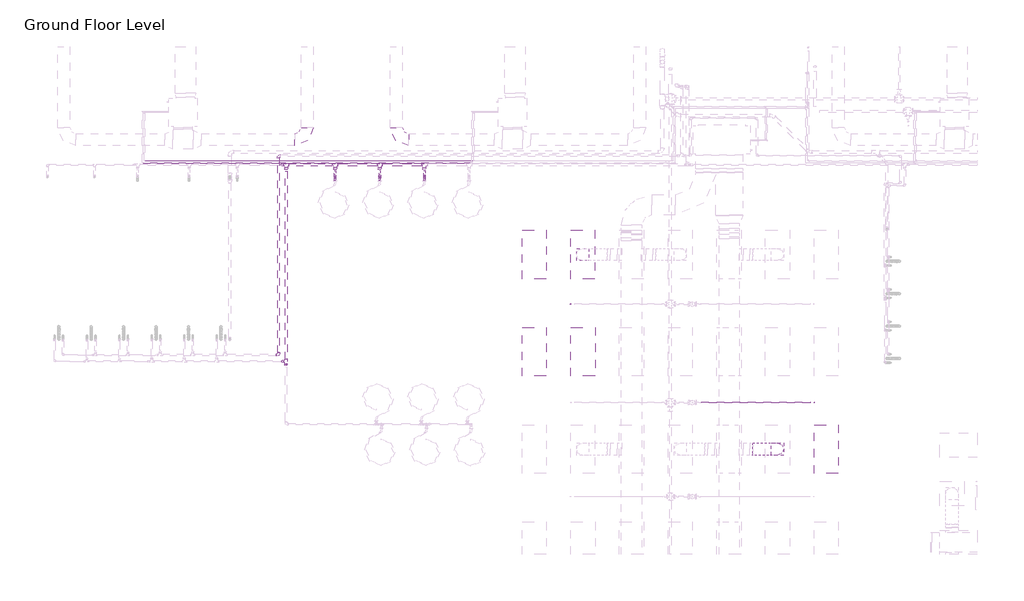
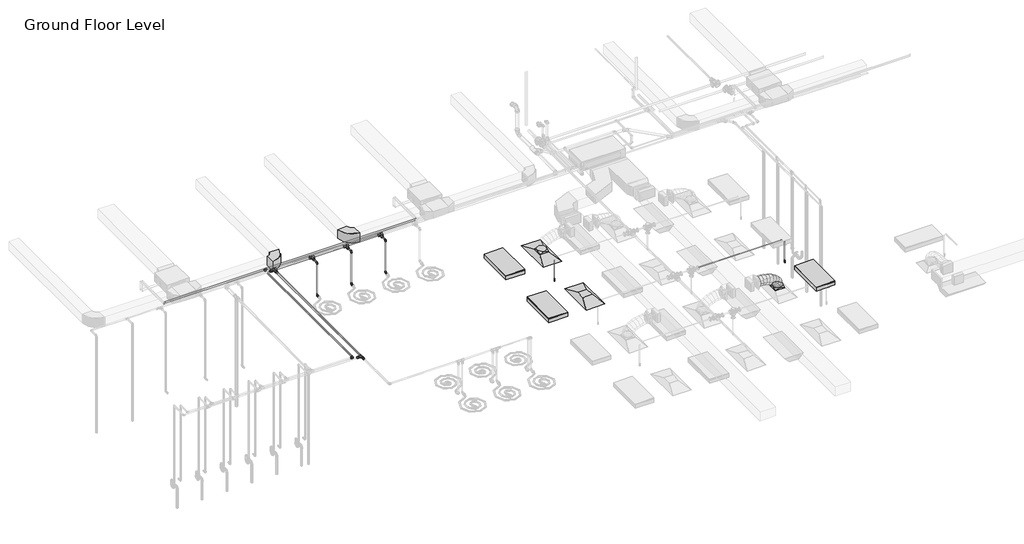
# One storey, part 47 of 74: 20 pipe fittings, 19 pipe segments, 4 duct fittings, 3 light fixtures, 2 air terminals, 2 fire suppression terminals, 1 duct segment.
"""IFC4 building model written with IfcOpenShell, lengths in millimetres."""

from ifc_helpers import new_model, si_unit, point, frame, frame_2d, origin, place, context, project, spatial, circle_curve, ellipse_curve, trimmed, segment, composite_curve, outline, extrude, transform, mapped, element, save
from ifc_brep_helpers import plane_surface, cylinder_surface, advanced_brep
from components import m_return_diffuser_1200x600_1200_x_600_face_300_x_300_d1983ef6, m_rectangular_elbow_radius_1_w_618da153, m_rectangular_to_round_transition_angle_45_degree_641efff0, m_sprinkler_dry_pendent_hosted_15_mm_dry_pendent_9bda8e11, m_troffer_light_parabolic_rectangular1_0600x1200mm_4_lamp_86473d4a, standard_517a5a8d, standard_cd25fed3, standard_f1337950, standard_5079833c, standard_92e3b147, standard_bbae78af, standard_69e4ce0e, standard_a995ec02

model = new_model("IFC4")

# Units and contexts
model_context = context("Model", 3, world=origin())
ifc_project = project(units=[si_unit("LENGTHUNIT", "METRE", prefix="MILLI")], contexts=[model_context])

# Site, building, storey
site = spatial("IfcSite", under=ifc_project)
building = spatial("IfcBuilding", under=site)
storey = spatial("IfcBuildingStorey", under=building, Name="Ground Floor Level", Elevation=900.0)

# Air terminals
placement = place(None, origin())
m_return_diffuser_1200x600_1200_x_600_face_300_x_300_shape = m_return_diffuser_1200x600_1200_x_600_face_300_x_300_d1983ef6(model_context)
element("IfcAirTerminal", 1, ObjectType="M_Return Diffuser 1200x600 : 1200 x 600 Face 300 x 300 Connection", at=placement, inside=storey, context=model_context, shape_type="MappedRepresentation", body=[
    mapped(m_return_diffuser_1200x600_1200_x_600_face_300_x_300_shape, transform((-8137.2327605, 8835.2153534, 3650.0), x_axis=(0.0, 1.0, 0.0), y_axis=(-1.0, 0.0, 0.0), z_axis=(0.0, 0.0, 1.0))),
])
element("IfcAirTerminal", 2, ObjectType="M_Supply Diffuser 1200x600 : 1200 x 600 Face 300 x 300 Connection", at=placement, inside=storey, context=model_context, shape_type="MappedRepresentation", body=[
    mapped(m_return_diffuser_1200x600_1200_x_600_face_300_x_300_shape, transform((-8142.6846929, 11235.2153534, 3650.0), x_axis=(0.0, 1.0, 0.0), y_axis=(-1.0, 0.0, 0.0), z_axis=(0.0, 0.0, 1.0))),
])

# Duct fittings
m_rectangular_elbow_radius_1_w_shape = m_rectangular_elbow_radius_1_w_618da153(model_context)
element("IfcDuctFitting", 3, ObjectType="M_Rectangular Elbow - Radius : 1 W", at=placement, inside=storey, context=model_context, shape_type="MappedRepresentation", body=[
    mapped(m_rectangular_elbow_radius_1_w_shape, transform((-14937.2327605, 14069.8153534, 4075.2881511), x_axis=(1.0, 0.0, 0.0), y_axis=(0.0, 1.0, 0.0), z_axis=(0.0, 0.0, 1.0))),
])
element("IfcDuctFitting", 4, ObjectType="M_Rectangular Elbow - Radius : 1 W", at=placement, inside=storey, context=model_context, shape_type="MappedRepresentation", body=[
    mapped(m_rectangular_elbow_radius_1_w_shape, transform((-12737.2327605, 14069.8153534, 4075.2872564), x_axis=(0.0, -1.0, 0.0), y_axis=(1.0, 0.0, 0.0), z_axis=(0.0, 0.0, 1.0))),
])
m_rectangular_to_round_transition_angle_45_degree_shape = m_rectangular_to_round_transition_angle_45_degree_641efff0(model_context)
element("IfcDuctFitting", 5, ObjectType="M_Rectangular to Round Transition - Angle : 45 Degree", at=placement, inside=storey, context=model_context, shape_type="MappedRepresentation", body=[
    mapped(m_rectangular_to_round_transition_angle_45_degree_shape, transform((-8142.6846929, 11235.2153534, 3751.6), x_axis=(0.0, 0.0, 1.0), y_axis=(-1.0, 0.0, 0.0), z_axis=(0.0, -1.0, 0.0))),
])
element("IfcDuctFitting", 6, ObjectType="M_Rectangular to Round Transition - Angle : 45 Degree", at=placement, inside=storey, context=model_context, shape_type="MappedRepresentation", body=[
    mapped(m_rectangular_to_round_transition_angle_45_degree_shape, transform((-3337.2327605, 6435.2153534, 3751.6), x_axis=(0.0, 0.0, 1.0), y_axis=(-1.0, 0.0, 0.0), z_axis=(0.0, -1.0, 0.0))),
])

# Duct segment
element("IfcDuctSegment", 7, ObjectType="Flex - Round", at=placement, inside=storey, context=model_context, shape_type="AdvancedBrep", body=[
    advanced_brep(
    [(-3187.2327605, 6435.2153534, 3826.6), (-3337.2327605, 6285.2153534, 3826.6), (-3487.2327605, 6435.2153534, 3826.6), (-3337.2327605, 6585.2153534, 3826.6), (-3187.2327605, 6435.2153534, 3882.1255581), (-3337.2327605, 6285.2153534, 3857.3046173), (-3487.2327605, 6435.2153534, 3832.4836764), (-3337.2327605, 6585.2153534, 3857.3046173), (-3218.4253034, 6435.2153534, 3973.7974983), (-3353.8937102, 6285.2153534, 3906.2695763), (-3489.362117, 6435.2153534, 3838.7416543), (-3353.8937102, 6585.2153534, 3906.2695763), (-3288.1573657, 6435.2153534, 4076.409352), (-3399.7704918, 6285.2153534, 3973.7779999), (-3511.3836179, 6435.2153534, 3871.1466478), (-3399.7704918, 6585.2153534, 3973.7779999), (-3386.082926, 6435.2153534, 4155.7082221), (-3468.7040039, 6285.2153534, 4029.599479), (-3551.3250817, 6435.2153534, 3903.4907359), (-3468.7040039, 6585.2153534, 4029.599479), (-3494.825089, 6435.2153534, 4212.2244369), (-3554.535145, 6285.2153534, 4074.2082221), (-3614.2452011, 6435.2153534, 3936.1920073), (-3554.535145, 6585.2153534, 4074.2082221), (-3609.1145825, 6435.2153534, 4252.3095878), (-3651.104814, 6285.2153534, 4108.0784374), (-3693.0950455, 6435.2153534, 3963.847287), (-3651.104814, 6585.2153534, 4108.0784374), (-3724.8435514, 6435.2153534, 4279.3180942), (-3752.2539093, 6285.2153534, 4131.6843333), (-3779.6642673, 6435.2153534, 3984.0505724), (-3752.2539093, 6585.2153534, 4131.6843333), (-3837.5009499, 6435.2153534, 4294.9499053), (-3851.8233297, 6285.2153534, 4145.500118), (-3866.1457095, 6435.2153534, 3996.0503308), (-3851.8233297, 6585.2153534, 4145.500118), (-3932.3208261, 6435.2153534, 4300.0), (-3936.312488, 6285.2153534, 4150.0), (-3940.3041499, 6435.2153534, 4000.0), (-3936.312488, 6585.2153534, 4150.0), (-3943.6539738, 6435.2153534, 4300.0), (-3943.6539738, 6585.2153534, 4150.0), (-3943.6539738, 6435.2153534, 4000.0), (-3943.6539738, 6285.2153534, 4150.0)],
    [
        (0, 1, circle_curve(frame((-3337.2327605, 6435.2153534, 3826.6), z_axis=(0.0, 0.0, -1.0), x_axis=(1.0, 0.0, 0.0)), 150.0)),
        (1, 2, circle_curve(frame((-3337.2327605, 6435.2153534, 3826.6), z_axis=(0.0, 0.0, -1.0), x_axis=(1.0, 0.0, 0.0)), 150.0)),
        (2, 3, circle_curve(frame((-3337.2327605, 6435.2153534, 3826.6), z_axis=(0.0, 0.0, -1.0), x_axis=(1.0, 0.0, 0.0)), 150.0)),
        (3, 0, circle_curve(frame((-3337.2327605, 6435.2153534, 3826.6), z_axis=(0.0, 0.0, -1.0), x_axis=(1.0, 0.0, 0.0)), 150.0)),
        (0, 4),
        (4, 5, ellipse_curve(frame((-3337.2327605, 6435.2153534, 3857.3046173), z_axis=(0.16325299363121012, 0.0, -0.9865842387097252), x_axis=(-0.9865842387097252, 0.0, -0.16325299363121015)), 152.0397287, 150.0)),
        (5, 1),
        (5, 6, ellipse_curve(frame((-3337.2327605, 6435.2153534, 3857.3046173), z_axis=(0.16325299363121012, 0.0, -0.9865842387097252), x_axis=(-0.9865842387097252, 0.0, -0.16325299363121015)), 152.0397287, 150.0)),
        (6, 2),
        (6, 7, ellipse_curve(frame((-3337.2327605, 6435.2153534, 3857.3046173), z_axis=(0.16325299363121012, 0.0, -0.9865842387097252), x_axis=(-0.9865842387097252, 0.0, -0.16325299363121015)), 152.0397287, 150.0)),
        (7, 3),
        (7, 4, ellipse_curve(frame((-3337.2327605, 6435.2153534, 3857.3046173), z_axis=(0.16325299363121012, 0.0, -0.9865842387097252), x_axis=(-0.9865842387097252, 0.0, -0.16325299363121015)), 152.0397287, 150.0)),
        (4, 8),
        (8, 9, ellipse_curve(frame((-3353.8937102, 6435.2153534, 3906.2695763), z_axis=(0.446123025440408, 0.0, -0.894971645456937), x_axis=(-0.8949716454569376, 0.0, -0.44612302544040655)), 151.3661438, 150.0)),
        (9, 5),
        (9, 10, ellipse_curve(frame((-3353.8937102, 6435.2153534, 3906.2695763), z_axis=(0.446123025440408, 0.0, -0.894971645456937), x_axis=(-0.8949716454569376, 0.0, -0.44612302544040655)), 151.3661438, 150.0)),
        (10, 6),
        (10, 11, ellipse_curve(frame((-3353.8937102, 6435.2153534, 3906.2695763), z_axis=(0.446123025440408, 0.0, -0.894971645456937), x_axis=(-0.8949716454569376, 0.0, -0.44612302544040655)), 151.3661438, 150.0)),
        (11, 7),
        (11, 8, ellipse_curve(frame((-3353.8937102, 6435.2153534, 3906.2695763), z_axis=(0.446123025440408, 0.0, -0.894971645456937), x_axis=(-0.8949716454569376, 0.0, -0.44612302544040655)), 151.3661438, 150.0)),
        (8, 12),
        (12, 13, ellipse_curve(frame((-3399.7704918, 6435.2153534, 3973.7779999), z_axis=(0.6768681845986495, 0.0, -0.7361042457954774), x_axis=(-0.7361042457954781, 0.0, -0.6768681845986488)), 151.626793, 150.0)),
        (13, 9),
        (13, 14, ellipse_curve(frame((-3399.7704918, 6435.2153534, 3973.7779999), z_axis=(0.6768681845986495, 0.0, -0.7361042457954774), x_axis=(-0.7361042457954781, 0.0, -0.6768681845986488)), 151.626793, 150.0)),
        (14, 10),
        (14, 15, ellipse_curve(frame((-3399.7704918, 6435.2153534, 3973.7779999), z_axis=(0.6768681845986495, 0.0, -0.7361042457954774), x_axis=(-0.7361042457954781, 0.0, -0.6768681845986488)), 151.626793, 150.0)),
        (15, 11),
        (15, 12, ellipse_curve(frame((-3399.7704918, 6435.2153534, 3973.7779999), z_axis=(0.6768681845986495, 0.0, -0.7361042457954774), x_axis=(-0.7361042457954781, 0.0, -0.6768681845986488)), 151.626793, 150.0)),
        (12, 16),
        (16, 17, ellipse_curve(frame((-3468.7040039, 6435.2153534, 4029.599479), z_axis=(0.8364668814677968, 0.0, -0.5480174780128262), x_axis=(-0.5480174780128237, 0.0, -0.8364668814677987)), 150.7635818, 150.0)),
        (17, 13),
        (17, 18, ellipse_curve(frame((-3468.7040039, 6435.2153534, 4029.599479), z_axis=(0.8364668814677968, 0.0, -0.5480174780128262), x_axis=(-0.5480174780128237, 0.0, -0.8364668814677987)), 150.7635818, 150.0)),
        (18, 14),
        (18, 19, ellipse_curve(frame((-3468.7040039, 6435.2153534, 4029.599479), z_axis=(0.8364668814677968, 0.0, -0.5480174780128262), x_axis=(-0.5480174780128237, 0.0, -0.8364668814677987)), 150.7635818, 150.0)),
        (19, 15),
        (19, 16, ellipse_curve(frame((-3468.7040039, 6435.2153534, 4029.599479), z_axis=(0.8364668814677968, 0.0, -0.5480174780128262), x_axis=(-0.5480174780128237, 0.0, -0.8364668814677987)), 150.7635818, 150.0)),
        (16, 20),
        (20, 21, ellipse_curve(frame((-3554.535145, 6435.2153534, 4074.2082221), z_axis=(0.9177907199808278, 0.0, -0.3970644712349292), x_axis=(-0.3970644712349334, 0.0, -0.917790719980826)), 150.378743, 150.0)),
        (21, 17),
        (21, 22, ellipse_curve(frame((-3554.535145, 6435.2153534, 4074.2082221), z_axis=(0.9177907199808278, 0.0, -0.3970644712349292), x_axis=(-0.3970644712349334, 0.0, -0.917790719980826)), 150.378743, 150.0)),
        (22, 18),
        (22, 23, ellipse_curve(frame((-3554.535145, 6435.2153534, 4074.2082221), z_axis=(0.9177907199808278, 0.0, -0.3970644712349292), x_axis=(-0.3970644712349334, 0.0, -0.917790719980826)), 150.378743, 150.0)),
        (23, 19),
        (23, 20, ellipse_curve(frame((-3554.535145, 6435.2153534, 4074.2082221), z_axis=(0.9177907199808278, 0.0, -0.3970644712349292), x_axis=(-0.3970644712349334, 0.0, -0.917790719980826)), 150.378743, 150.0)),
        (20, 24),
        (24, 25, ellipse_curve(frame((-3651.104814, 6435.2153534, 4108.0784374), z_axis=(0.9601380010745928, 0.0, -0.2795264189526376), x_axis=(-0.2795264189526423, 0.0, -0.9601380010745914)), 150.2191875, 150.0)),
        (25, 21),
        (25, 26, ellipse_curve(frame((-3651.104814, 6435.2153534, 4108.0784374), z_axis=(0.9601380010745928, 0.0, -0.2795264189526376), x_axis=(-0.2795264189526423, 0.0, -0.9601380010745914)), 150.2191875, 150.0)),
        (26, 22),
        (26, 27, ellipse_curve(frame((-3651.104814, 6435.2153534, 4108.0784374), z_axis=(0.9601380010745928, 0.0, -0.2795264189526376), x_axis=(-0.2795264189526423, 0.0, -0.9601380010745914)), 150.2191875, 150.0)),
        (27, 23),
        (27, 24, ellipse_curve(frame((-3651.104814, 6435.2153534, 4108.0784374), z_axis=(0.9601380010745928, 0.0, -0.2795264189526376), x_axis=(-0.2795264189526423, 0.0, -0.9601380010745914)), 150.2191875, 150.0)),
        (24, 28),
        (28, 29, ellipse_curve(frame((-3752.2539093, 6435.2153534, 4131.6843333), z_axis=(0.9831975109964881, 0.0, -0.18254493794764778), x_axis=(-0.18254493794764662, 0.0, -0.9831975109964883)), 150.1567684, 150.0)),
        (29, 25),
        (29, 30, ellipse_curve(frame((-3752.2539093, 6435.2153534, 4131.6843333), z_axis=(0.9831975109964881, 0.0, -0.18254493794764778), x_axis=(-0.18254493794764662, 0.0, -0.9831975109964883)), 150.1567684, 150.0)),
        (30, 26),
        (30, 31, ellipse_curve(frame((-3752.2539093, 6435.2153534, 4131.6843333), z_axis=(0.9831975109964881, 0.0, -0.18254493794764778), x_axis=(-0.18254493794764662, 0.0, -0.9831975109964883)), 150.1567684, 150.0)),
        (31, 27),
        (31, 28, ellipse_curve(frame((-3752.2539093, 6435.2153534, 4131.6843333), z_axis=(0.9831975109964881, 0.0, -0.18254493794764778), x_axis=(-0.18254493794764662, 0.0, -0.9831975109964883)), 150.1567684, 150.0)),
        (28, 32),
        (32, 33, ellipse_curve(frame((-3851.8233297, 6435.2153534, 4145.500118), z_axis=(0.9954393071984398, 0.0, -0.09539698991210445), x_axis=(-0.09539698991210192, 0.0, -0.99543930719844)), 150.1345046, 150.0)),
        (33, 29),
        (33, 34, ellipse_curve(frame((-3851.8233297, 6435.2153534, 4145.500118), z_axis=(0.9954393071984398, 0.0, -0.09539698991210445), x_axis=(-0.09539698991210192, 0.0, -0.99543930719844)), 150.1345046, 150.0)),
        (34, 30),
        (34, 35, ellipse_curve(frame((-3851.8233297, 6435.2153534, 4145.500118), z_axis=(0.9954393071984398, 0.0, -0.09539698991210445), x_axis=(-0.09539698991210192, 0.0, -0.99543930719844)), 150.1345046, 150.0)),
        (35, 31),
        (35, 32, ellipse_curve(frame((-3851.8233297, 6435.2153534, 4145.500118), z_axis=(0.9954393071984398, 0.0, -0.09539698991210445), x_axis=(-0.09539698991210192, 0.0, -0.99543930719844)), 150.1345046, 150.0)),
        (32, 36),
        (36, 37, ellipse_curve(frame((-3936.312488, 6435.2153534, 4150.0), z_axis=(0.9996461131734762, 0.0, -0.02660166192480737), x_axis=(-0.026601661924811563, 0.0, -0.9996461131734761)), 150.0531018, 150.0)),
        (37, 33),
        (37, 38, ellipse_curve(frame((-3936.312488, 6435.2153534, 4150.0), z_axis=(0.9996461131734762, 0.0, -0.02660166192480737), x_axis=(-0.026601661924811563, 0.0, -0.9996461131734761)), 150.0531018, 150.0)),
        (38, 34),
        (38, 39, ellipse_curve(frame((-3936.312488, 6435.2153534, 4150.0), z_axis=(0.9996461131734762, 0.0, -0.02660166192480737), x_axis=(-0.026601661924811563, 0.0, -0.9996461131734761)), 150.0531018, 150.0)),
        (39, 35),
        (39, 36, ellipse_curve(frame((-3936.312488, 6435.2153534, 4150.0), z_axis=(0.9996461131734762, 0.0, -0.02660166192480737), x_axis=(-0.026601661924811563, 0.0, -0.9996461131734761)), 150.0531018, 150.0)),
        (40, 41, circle_curve(frame((-3943.6539738, 6435.2153534, 4150.0), z_axis=(-1.0, 0.0, 0.0), x_axis=(0.0, 0.0, 1.0)), 150.0)),
        (41, 42, circle_curve(frame((-3943.6539738, 6435.2153534, 4150.0), z_axis=(-1.0, 0.0, 0.0), x_axis=(0.0, 0.0, 1.0)), 150.0)),
        (42, 43, circle_curve(frame((-3943.6539738, 6435.2153534, 4150.0), z_axis=(-1.0, 0.0, 0.0), x_axis=(0.0, 0.0, 1.0)), 150.0)),
        (43, 40, circle_curve(frame((-3943.6539738, 6435.2153534, 4150.0), z_axis=(-1.0, 0.0, 0.0), x_axis=(0.0, 0.0, 1.0)), 150.0)),
        (36, 40),
        (43, 37),
        (42, 38),
        (41, 39),
    ],
    [
        plane_surface(frame((-3337.2327605, 6285.2153534, 3826.6), z_axis=(0.0, 0.0, -1.0), x_axis=(1.0, 0.0, 0.0))),
        cylinder_surface(frame((-3337.2327605, 6435.2153534, 3826.6), z_axis=(0.0, 0.0, -1.0), x_axis=(1.0, 0.0, 0.0)), 150.0),
        cylinder_surface(frame((-3337.2327605, 6435.2153534, 3857.3046173), z_axis=(0.3221256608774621, 0.0, -0.9466969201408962), x_axis=(0.9466969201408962, 0.0, 0.3221256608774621)), 150.0),
        cylinder_surface(frame((-3353.8937102, 6435.2153534, 3906.2695763), z_axis=(0.5620674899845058, 0.0, -0.8270913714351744), x_axis=(0.8270913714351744, 0.0, 0.5620674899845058)), 150.0),
        cylinder_surface(frame((-3399.7704918, 6435.2153534, 3973.7779999), z_axis=(0.7771447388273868, 0.0, -0.6293219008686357), x_axis=(0.6293219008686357, 0.0, 0.7771447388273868)), 150.0),
        cylinder_surface(frame((-3468.7040039, 6435.2153534, 4029.599479), z_axis=(0.8873160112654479, 0.0, -0.4611618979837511), x_axis=(0.4611618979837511, 0.0, 0.8873160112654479)), 150.0),
        cylinder_surface(frame((-3554.535145, 6435.2153534, 4074.2082221), z_axis=(0.9436423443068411, 0.0, -0.3309669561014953), x_axis=(0.3309669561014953, 0.0, 0.9436423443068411)), 150.0),
        cylinder_surface(frame((-3651.104814, 6435.2153534, 4108.0784374), z_axis=(0.973831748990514, 0.0, -0.22727015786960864), x_axis=(0.22727015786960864, 0.0, 0.973831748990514)), 150.0),
        cylinder_surface(frame((-3752.2539093, 6435.2153534, 4131.6843333), z_axis=(0.9905102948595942, 0.0, -0.1374385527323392), x_axis=(0.1374385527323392, 0.0, 0.9905102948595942)), 150.0),
        cylinder_surface(frame((-3851.8233297, 6435.2153534, 4145.500118), z_axis=(0.9985847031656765, 0.0, -0.05318449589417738), x_axis=(0.05318449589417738, 0.0, 0.9985847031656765)), 150.0),
        plane_surface(frame((-3943.6539738, 6435.2153534, 4000.0), z_axis=(-1.0, 0.0, 0.0), x_axis=(0.0, -1.0, 0.0))),
        cylinder_surface(frame((-3936.312488, 6435.2153534, 4150.0), z_axis=(1.0, 0.0, 0.0), x_axis=(0.0, 0.0, 1.0)), 150.0),
    ],
    [
        (0, [[1, 2, 3, 4]]),
        (1, [[-1, 5, 6, 7]]),
        (1, [[-2, -7, 8, 9]]),
        (1, [[-3, -9, 10, 11]]),
        (1, [[-4, -11, 12, -5]]),
        (2, [[-6, 13, 14, 15]]),
        (2, [[-8, -15, 16, 17]]),
        (2, [[-10, -17, 18, 19]]),
        (2, [[-12, -19, 20, -13]]),
        (3, [[-14, 21, 22, 23]]),
        (3, [[-16, -23, 24, 25]]),
        (3, [[-18, -25, 26, 27]]),
        (3, [[-20, -27, 28, -21]]),
        (4, [[-22, 29, 30, 31]]),
        (4, [[-24, -31, 32, 33]]),
        (4, [[-26, -33, 34, 35]]),
        (4, [[-28, -35, 36, -29]]),
        (5, [[-30, 37, 38, 39]]),
        (5, [[-32, -39, 40, 41]]),
        (5, [[-34, -41, 42, 43]]),
        (5, [[-36, -43, 44, -37]]),
        (6, [[-38, 45, 46, 47]]),
        (6, [[-40, -47, 48, 49]]),
        (6, [[-42, -49, 50, 51]]),
        (6, [[-44, -51, 52, -45]]),
        (7, [[-46, 53, 54, 55]]),
        (7, [[-48, -55, 56, 57]]),
        (7, [[-50, -57, 58, 59]]),
        (7, [[-52, -59, 60, -53]]),
        (8, [[-54, 61, 62, 63]]),
        (8, [[-56, -63, 64, 65]]),
        (8, [[-58, -65, 66, 67]]),
        (8, [[-60, -67, 68, -61]]),
        (9, [[-62, 69, 70, 71]]),
        (9, [[-64, -71, 72, 73]]),
        (9, [[-66, -73, 74, 75]]),
        (9, [[-68, -75, 76, -69]]),
        (10, [[77, 78, 79, 80]]),
        (11, [[-70, 81, -80, 82]]),
        (11, [[-72, -82, -79, 83]]),
        (11, [[-74, -83, -78, 84]]),
        (11, [[-76, -84, -77, -81]]),
    ],
),
])

# Fire suppression terminals
m_sprinkler_dry_pendent_hosted_15_mm_dry_pendent_shape = m_sprinkler_dry_pendent_hosted_15_mm_dry_pendent_9bda8e11(model_context)
element("IfcFireSuppressionTerminal", 8, ObjectType="M_Sprinkler - Dry - Pendent - Hosted : 15 mm Dry Pendent", at=placement, inside=storey, context=model_context, shape_type="MappedRepresentation", body=[
    mapped(m_sprinkler_dry_pendent_hosted_15_mm_dry_pendent_shape, transform((-8437.2327605, 10013.008259, 3650.0), x_axis=(1.0, 0.0, 0.0), y_axis=(0.0, -1.0, 0.0), z_axis=(0.0, 0.0, -1.0))),
])
element("IfcFireSuppressionTerminal", 9, ObjectType="M_Sprinkler - Dry - Pendent - Hosted : 15 mm Dry Pendent", at=placement, inside=storey, context=model_context, shape_type="MappedRepresentation", body=[
    mapped(m_sprinkler_dry_pendent_hosted_15_mm_dry_pendent_shape, transform((-2437.2327605, 7582.7040742, 3650.0), x_axis=(1.0, 0.0, 0.0), y_axis=(0.0, -1.0, 0.0), z_axis=(0.0, 0.0, -1.0))),
])

# Light fixtures
m_troffer_light_parabolic_rectangular1_0600x1200mm_4_lamp_shape = m_troffer_light_parabolic_rectangular1_0600x1200mm_4_lamp_86473d4a(model_context)
element("IfcLightFixture", 10, ObjectType="M_Troffer Light - Parabolic Rectangular1 : 0600x1200mm(4 Lamp) - 277V 2", at=placement, inside=storey, context=model_context, shape_type="MappedRepresentation", body=[
    mapped(m_troffer_light_parabolic_rectangular1_0600x1200mm_4_lamp_shape, transform((-9396.6986926, 11253.918855, 3650.0), x_axis=(0.0, 1.0, 0.0), y_axis=(-1.0, 0.0, 0.0), z_axis=(0.0, 0.0, 1.0))),
])
element("IfcLightFixture", 11, ObjectType="M_Troffer Light - Parabolic Rectangular1 : 0600x1200mm(4 Lamp) - 277V 2", at=placement, inside=storey, context=model_context, shape_type="MappedRepresentation", body=[
    mapped(m_troffer_light_parabolic_rectangular1_0600x1200mm_4_lamp_shape, transform((-9396.6986926, 8853.918855, 3650.0), x_axis=(0.0, 1.0, 0.0), y_axis=(-1.0, 0.0, 0.0), z_axis=(0.0, 0.0, 1.0))),
])
element("IfcLightFixture", 12, ObjectType="M_Troffer Light - Parabolic Rectangular1 : 0600x1200mm(4 Lamp) - 277V 2", at=placement, inside=storey, context=model_context, shape_type="MappedRepresentation", body=[
    mapped(m_troffer_light_parabolic_rectangular1_0600x1200mm_4_lamp_shape, transform((-2196.6986926, 6453.918855, 3650.0), x_axis=(0.0, 1.0, 0.0), y_axis=(-1.0, 0.0, 0.0), z_axis=(0.0, 0.0, 1.0))),
])

# Pipe fittings
standard_shape = standard_517a5a8d(model_context)
element("IfcPipeFitting", 13, ObjectType="M_Elbow - CPVC - Sch 40 : Standard", at=placement, inside=storey, context=model_context, shape_type="MappedRepresentation", body=[
    mapped(standard_shape, transform((-14247.2327605, 13150.8347997, 3200.0), x_axis=(0.0, 1.0, 0.0), y_axis=(0.0, 0.0, 1.0), z_axis=(1.0, 0.0, 0.0))),
])
element("IfcPipeFitting", 14, ObjectType="M_Elbow - CPVC - Sch 40 : Standard", at=placement, inside=storey, context=model_context, shape_type="MappedRepresentation", body=[
    mapped(standard_shape, transform((-14247.2327605, 13150.8347997, 4315.0), x_axis=(0.0, 0.0, 1.0), y_axis=(0.0, 1.0, 0.0), z_axis=(-1.0, 0.0, 0.0))),
])
element("IfcPipeFitting", 15, ObjectType="M_Elbow - CPVC - Sch 40 : Standard", at=placement, inside=storey, context=model_context, shape_type="MappedRepresentation", body=[
    mapped(standard_shape, transform((-13147.2327605, 13150.8347997, 4315.0), x_axis=(0.0, 0.0, 1.0), y_axis=(0.0, 1.0, 0.0), z_axis=(-1.0, 0.0, 0.0))),
])
element("IfcPipeFitting", 16, ObjectType="M_Elbow - CPVC - Sch 40 : Standard", at=placement, inside=storey, context=model_context, shape_type="MappedRepresentation", body=[
    mapped(standard_shape, transform((-12047.2327605, 13150.8347997, 4315.0), x_axis=(0.0, 0.0, 1.0), y_axis=(0.0, 1.0, 0.0), z_axis=(-1.0, 0.0, 0.0))),
])
element("IfcPipeFitting", 17, ObjectType="M_Elbow - CPVC - Sch 40 : Standard", at=placement, inside=storey, context=model_context, shape_type="MappedRepresentation", body=[
    mapped(standard_shape, transform((-13147.2327605, 13150.8347997, 3200.0), x_axis=(0.0, 0.0, -1.0), y_axis=(0.0, -1.0, 0.0), z_axis=(-1.0, 0.0, 0.0))),
])
element("IfcPipeFitting", 18, ObjectType="M_Elbow - CPVC - Sch 40 : Standard", at=placement, inside=storey, context=model_context, shape_type="MappedRepresentation", body=[
    mapped(standard_shape, transform((-12047.2327605, 13150.8347997, 3200.0), x_axis=(0.0, 0.0, -1.0), y_axis=(0.0, -1.0, 0.0), z_axis=(-1.0, 0.0, 0.0))),
])
standard_2_shape = standard_cd25fed3(model_context)
element("IfcPipeFitting", 19, ObjectType="M_Tee - CPVC - Sch 40 : Standard", at=placement, inside=storey, context=model_context, shape_type="MappedRepresentation", body=[
    mapped(standard_2_shape, transform((-14247.2327605, 13449.9865561, 4315.0), x_axis=(-1.0, 0.0, 0.0), y_axis=(0.0, 1.0, 0.0), z_axis=(0.0, 0.0, -1.0))),
])
element("IfcPipeFitting", 20, ObjectType="M_Tee - CPVC - Sch 40 : Standard", at=placement, inside=storey, context=model_context, shape_type="MappedRepresentation", body=[
    mapped(standard_2_shape, transform((-13147.2327605, 13449.9865561, 4315.0), x_axis=(-1.0, 0.0, 0.0), y_axis=(0.0, 1.0, 0.0), z_axis=(0.0, 0.0, -1.0))),
])
element("IfcPipeFitting", 21, ObjectType="M_Tee - CPVC - Sch 40 : Standard", at=placement, inside=storey, context=model_context, shape_type="MappedRepresentation", body=[
    mapped(standard_2_shape, transform((-12047.2327605, 13449.9865561, 4315.0), x_axis=(-1.0, 0.0, 0.0), y_axis=(0.0, 1.0, 0.0), z_axis=(0.0, 0.0, -1.0))),
])
element("IfcPipeFitting", 22, ObjectType="M_Tee - CPVC - Sch 40 : Standard", at=placement, inside=storey, context=model_context, shape_type="MappedRepresentation", body=[
    mapped(standard_2_shape, transform((-15455.6408298, 13449.9865561, 4315.0), x_axis=(-1.0, 0.0, 0.0), y_axis=(0.0, 1.0, 0.0), z_axis=(0.0, 0.0, -1.0))),
])
standard_3_shape = standard_f1337950(model_context)
element("IfcPipeFitting", 23, ObjectType="M_Coupling Reducing - CPVC - Sch 40 : Standard", at=placement, inside=storey, context=model_context, shape_type="MappedRepresentation", body=[
    mapped(standard_3_shape, transform((-14247.2327605, 13383.3115561, 4315.0), x_axis=(0.0, -1.0, 0.0), y_axis=(1.0, 0.0, 0.0), z_axis=(0.0, 0.0, 1.0))),
])
element("IfcPipeFitting", 24, ObjectType="M_Coupling Reducing - CPVC - Sch 40 : Standard", at=placement, inside=storey, context=model_context, shape_type="MappedRepresentation", body=[
    mapped(standard_3_shape, transform((-13147.2327605, 13383.3115561, 4315.0), x_axis=(0.0, -1.0, 0.0), y_axis=(1.0, 0.0, 0.0), z_axis=(0.0, 0.0, 1.0))),
])
element("IfcPipeFitting", 25, ObjectType="M_Coupling Reducing - CPVC - Sch 40 : Standard", at=placement, inside=storey, context=model_context, shape_type="MappedRepresentation", body=[
    mapped(standard_3_shape, transform((-12047.2327605, 13383.3115561, 4315.0), x_axis=(0.0, -1.0, 0.0), y_axis=(1.0, 0.0, 0.0), z_axis=(0.0, 0.0, 1.0))),
])
standard_4_shape = standard_5079833c(model_context)
element("IfcPipeFitting", 26, ObjectType="M_Coupling Reducing - CPVC - Sch 40 : Standard", at=placement, inside=storey, context=model_context, shape_type="MappedRepresentation", body=[
    mapped(standard_4_shape, transform((-15522.3158298, 13449.9865561, 4315.0), x_axis=(-1.0, 0.0, 0.0), y_axis=(0.0, -1.0, 0.0), z_axis=(0.0, 0.0, 1.0))),
])
standard_5_shape = standard_92e3b147(model_context)
element("IfcPipeFitting", 27, ObjectType="M_Coupling Reducing - CPVC - Sch 40 : Standard", at=placement, inside=storey, context=model_context, shape_type="MappedRepresentation", body=[
    mapped(standard_5_shape, transform((-15455.6408298, 13383.3115561, 4315.0), x_axis=(0.0, -1.0, 0.0), y_axis=(1.0, 0.0, 0.0), z_axis=(0.0, 0.0, 1.0))),
])
standard_6_shape = standard_bbae78af(model_context)
element("IfcPipeFitting", 28, ObjectType="M_Tee - CPVC - Sch 40 : Standard", at=placement, inside=storey, context=model_context, shape_type="MappedRepresentation", body=[
    mapped(standard_6_shape, transform((-15455.6408298, 8599.9071734, 4315.0), x_axis=(0.0, 1.0, 0.0), y_axis=(1.0, 0.0, 0.0), z_axis=(0.0, 0.0, -1.0))),
])
standard_7_shape = standard_69e4ce0e(model_context)
element("IfcPipeFitting", 29, ObjectType="M_Elbow - CPVC - Sch 40 : Standard", at=placement, inside=storey, context=model_context, shape_type="MappedRepresentation", body=[
    mapped(standard_7_shape, transform((-15642.8173674, 8755.2153534, 4250.0), x_axis=(1.0, 0.0, 0.0), y_axis=(0.0, 1.0, 0.0), z_axis=(0.0, 0.0, 1.0))),
])
element("IfcPipeFitting", 30, ObjectType="M_Elbow - CPVC - Sch 40 : Standard", at=placement, inside=storey, context=model_context, shape_type="MappedRepresentation", body=[
    mapped(standard_7_shape, transform((-15642.8173674, 13675.2153534, 4250.0), x_axis=(-1.0, 0.0, 0.0), y_axis=(0.0, -1.0, 0.0), z_axis=(0.0, 0.0, 1.0))),
])
standard_8_shape = standard_a995ec02(model_context)
element("IfcPipeFitting", 31, ObjectType="M_Coupling Reducing - CPVC - Sch 40 : Standard", at=placement, inside=storey, context=model_context, shape_type="MappedRepresentation", body=[
    mapped(standard_8_shape, transform((-15455.6408298, 8541.1569734, 4315.0), x_axis=(0.0, -1.0, 0.0), y_axis=(1.0, 0.0, 0.0), z_axis=(0.0, 0.0, 1.0))),
])
element("IfcPipeFitting", 32, ObjectType="M_Coupling Reducing - CPVC - Sch 40 : Standard", at=placement, inside=storey, context=model_context, shape_type="MappedRepresentation", body=[
    mapped(standard_8_shape, transform((-15514.3910298, 8599.9071734, 4315.0), x_axis=(-1.0, 0.0, 0.0), y_axis=(0.0, -1.0, 0.0), z_axis=(0.0, 0.0, 1.0))),
])

# Pipe segments
element("IfcPipeSegment", 33, ObjectType="CPVC", at=placement, inside=storey, context=model_context, shape_type="SweptSolid", body=[
    extrude(outline(composite_curve([segment(trimmed(circle_curve(frame_2d((3200.0, -14247.2327605)), 16.7005), [point((3200.0, -14230.5322605))], [point((3216.7005, -14247.2327605))], False, "CARTESIAN"), True, "CONTINUOUS"), segment(trimmed(circle_curve(frame_2d((3200.0, -14247.2327605)), 16.7005), [point((3216.7005, -14247.2327605))], [point((3200.0, -14263.9332605))], False, "CARTESIAN"), True, "CONTINUOUS"), segment(trimmed(circle_curve(frame_2d((3200.0, -14247.2327605)), 16.7005), [point((3200.0, -14263.9332605))], [point((3183.2995, -14247.2327605))], False, "CARTESIAN"), True, "CONTINUOUS"), segment(trimmed(circle_curve(frame_2d((3200.0, -14247.2327605)), 16.7005), [point((3183.2995, -14247.2327605))], [point((3200.0, -14230.5322605))], False, "CARTESIAN"), True, "CONTINUOUS")], self_intersect=False)), frame((0.0, 13056.8347997, 0.0), z_axis=(0.0, 1.0, 0.0), x_axis=(0.0, 0.0, 1.0)), (0.0, 0.0, 1.0), 50.73745),
])
element("IfcPipeSegment", 34, ObjectType="CPVC", at=placement, inside=storey, context=model_context, shape_type="SweptSolid", body=[
    extrude(outline(composite_curve([segment(trimmed(circle_curve(frame_2d((4315.0, -14247.2327605)), 16.7005), [point((4315.0, -14230.5322605))], [point((4331.7005, -14247.2327605))], False, "CARTESIAN"), True, "CONTINUOUS"), segment(trimmed(circle_curve(frame_2d((4315.0, -14247.2327605)), 16.7005), [point((4331.7005, -14247.2327605))], [point((4315.0, -14263.9332605))], False, "CARTESIAN"), True, "CONTINUOUS"), segment(trimmed(circle_curve(frame_2d((4315.0, -14247.2327605)), 16.7005), [point((4315.0, -14263.9332605))], [point((4298.2995, -14247.2327605))], False, "CARTESIAN"), True, "CONTINUOUS"), segment(trimmed(circle_curve(frame_2d((4315.0, -14247.2327605)), 16.7005), [point((4298.2995, -14247.2327605))], [point((4315.0, -14230.5322605))], False, "CARTESIAN"), True, "CONTINUOUS")], self_intersect=False)), frame((0.0, 13194.0973497, 0.0), z_axis=(0.0, 1.0, 0.0), x_axis=(0.0, 0.0, 1.0)), (0.0, 0.0, 1.0), 109.4153315),
])
element("IfcPipeSegment", 35, ObjectType="CPVC", at=placement, inside=storey, context=model_context, shape_type="SweptSolid", body=[
    extrude(outline(composite_curve([segment(trimmed(circle_curve(frame_2d((-14247.2327605, 13150.8347997)), 16.7005), [point((-14263.9332605, 13150.8347997))], [point((-14247.2327605, 13167.5352997))], False, "CARTESIAN"), True, "CONTINUOUS"), segment(trimmed(circle_curve(frame_2d((-14247.2327605, 13150.8347997)), 16.7005), [point((-14247.2327605, 13167.5352997))], [point((-14230.5322605, 13150.8347997))], False, "CARTESIAN"), True, "CONTINUOUS"), segment(trimmed(circle_curve(frame_2d((-14247.2327605, 13150.8347997)), 16.7005), [point((-14230.5322605, 13150.8347997))], [point((-14247.2327605, 13134.1342997))], False, "CARTESIAN"), True, "CONTINUOUS"), segment(trimmed(circle_curve(frame_2d((-14247.2327605, 13150.8347997)), 16.7005), [point((-14247.2327605, 13134.1342997))], [point((-14263.9332605, 13150.8347997))], False, "CARTESIAN"), True, "CONTINUOUS")], self_intersect=False)), frame((0.0, 0.0, 3243.26255), z_axis=(0.0, 0.0, 1.0), x_axis=(1.0, 0.0, 0.0)), (0.0, 0.0, 1.0), 1028.4749),
])
element("IfcPipeSegment", 36, ObjectType="CPVC", at=placement, inside=storey, context=model_context, shape_type="SweptSolid", body=[
    extrude(outline(composite_curve([segment(trimmed(circle_curve(frame_2d((3200.0, -13147.2327605)), 16.7005), [point((3200.0, -13163.9332605))], [point((3183.2995, -13147.2327605))], False, "CARTESIAN"), True, "CONTINUOUS"), segment(trimmed(circle_curve(frame_2d((3200.0, -13147.2327605)), 16.7005), [point((3183.2995, -13147.2327605))], [point((3200.0, -13130.5322605))], False, "CARTESIAN"), True, "CONTINUOUS"), segment(trimmed(circle_curve(frame_2d((3200.0, -13147.2327605)), 16.7005), [point((3200.0, -13130.5322605))], [point((3216.7005, -13147.2327605))], False, "CARTESIAN"), True, "CONTINUOUS"), segment(trimmed(circle_curve(frame_2d((3200.0, -13147.2327605)), 16.7005), [point((3216.7005, -13147.2327605))], [point((3200.0, -13163.9332605))], False, "CARTESIAN"), True, "CONTINUOUS")], self_intersect=False)), frame((0.0, 13056.8347997, 0.0), z_axis=(0.0, 1.0, 0.0), x_axis=(0.0, 0.0, 1.0)), (0.0, 0.0, 1.0), 50.73745),
])
element("IfcPipeSegment", 37, ObjectType="CPVC", at=placement, inside=storey, context=model_context, shape_type="SweptSolid", body=[
    extrude(outline(composite_curve([segment(trimmed(circle_curve(frame_2d((4315.0, -13147.2327605)), 16.7005), [point((4315.0, -13130.5322605))], [point((4331.7005, -13147.2327605))], False, "CARTESIAN"), True, "CONTINUOUS"), segment(trimmed(circle_curve(frame_2d((4315.0, -13147.2327605)), 16.7005), [point((4331.7005, -13147.2327605))], [point((4315.0, -13163.9332605))], False, "CARTESIAN"), True, "CONTINUOUS"), segment(trimmed(circle_curve(frame_2d((4315.0, -13147.2327605)), 16.7005), [point((4315.0, -13163.9332605))], [point((4298.2995, -13147.2327605))], False, "CARTESIAN"), True, "CONTINUOUS"), segment(trimmed(circle_curve(frame_2d((4315.0, -13147.2327605)), 16.7005), [point((4298.2995, -13147.2327605))], [point((4315.0, -13130.5322605))], False, "CARTESIAN"), True, "CONTINUOUS")], self_intersect=False)), frame((0.0, 13194.0973497, 0.0), z_axis=(0.0, 1.0, 0.0), x_axis=(0.0, 0.0, 1.0)), (0.0, 0.0, 1.0), 109.4153315),
])
element("IfcPipeSegment", 38, ObjectType="CPVC", at=placement, inside=storey, context=model_context, shape_type="SweptSolid", body=[
    extrude(outline(composite_curve([segment(trimmed(circle_curve(frame_2d((-13147.2327605, 13150.8347997)), 16.7005), [point((-13163.9332605, 13150.8347997))], [point((-13147.2327605, 13167.5352997))], False, "CARTESIAN"), True, "CONTINUOUS"), segment(trimmed(circle_curve(frame_2d((-13147.2327605, 13150.8347997)), 16.7005), [point((-13147.2327605, 13167.5352997))], [point((-13130.5322605, 13150.8347997))], False, "CARTESIAN"), True, "CONTINUOUS"), segment(trimmed(circle_curve(frame_2d((-13147.2327605, 13150.8347997)), 16.7005), [point((-13130.5322605, 13150.8347997))], [point((-13147.2327605, 13134.1342997))], False, "CARTESIAN"), True, "CONTINUOUS"), segment(trimmed(circle_curve(frame_2d((-13147.2327605, 13150.8347997)), 16.7005), [point((-13147.2327605, 13134.1342997))], [point((-13163.9332605, 13150.8347997))], False, "CARTESIAN"), True, "CONTINUOUS")], self_intersect=False)), frame((0.0, 0.0, 3243.26255), z_axis=(0.0, 0.0, 1.0), x_axis=(1.0, 0.0, 0.0)), (0.0, 0.0, 1.0), 1028.4749),
])
element("IfcPipeSegment", 39, ObjectType="CPVC", at=placement, inside=storey, context=model_context, shape_type="SweptSolid", body=[
    extrude(outline(composite_curve([segment(trimmed(circle_curve(frame_2d((3200.0, -12047.2327605)), 16.7005), [point((3200.0, -12063.9332605))], [point((3183.2995, -12047.2327605))], False, "CARTESIAN"), True, "CONTINUOUS"), segment(trimmed(circle_curve(frame_2d((3200.0, -12047.2327605)), 16.7005), [point((3183.2995, -12047.2327605))], [point((3200.0, -12030.5322605))], False, "CARTESIAN"), True, "CONTINUOUS"), segment(trimmed(circle_curve(frame_2d((3200.0, -12047.2327605)), 16.7005), [point((3200.0, -12030.5322605))], [point((3216.7005, -12047.2327605))], False, "CARTESIAN"), True, "CONTINUOUS"), segment(trimmed(circle_curve(frame_2d((3200.0, -12047.2327605)), 16.7005), [point((3216.7005, -12047.2327605))], [point((3200.0, -12063.9332605))], False, "CARTESIAN"), True, "CONTINUOUS")], self_intersect=False)), frame((0.0, 13056.8347997, 0.0), z_axis=(0.0, 1.0, 0.0), x_axis=(0.0, 0.0, 1.0)), (0.0, 0.0, 1.0), 50.73745),
])
element("IfcPipeSegment", 40, ObjectType="CPVC", at=placement, inside=storey, context=model_context, shape_type="SweptSolid", body=[
    extrude(outline(composite_curve([segment(trimmed(circle_curve(frame_2d((4315.0, -12047.2327605)), 16.7005), [point((4315.0, -12030.5322605))], [point((4331.7005, -12047.2327605))], False, "CARTESIAN"), True, "CONTINUOUS"), segment(trimmed(circle_curve(frame_2d((4315.0, -12047.2327605)), 16.7005), [point((4331.7005, -12047.2327605))], [point((4315.0, -12063.9332605))], False, "CARTESIAN"), True, "CONTINUOUS"), segment(trimmed(circle_curve(frame_2d((4315.0, -12047.2327605)), 16.7005), [point((4315.0, -12063.9332605))], [point((4298.2995, -12047.2327605))], False, "CARTESIAN"), True, "CONTINUOUS"), segment(trimmed(circle_curve(frame_2d((4315.0, -12047.2327605)), 16.7005), [point((4298.2995, -12047.2327605))], [point((4315.0, -12030.5322605))], False, "CARTESIAN"), True, "CONTINUOUS")], self_intersect=False)), frame((0.0, 13194.0973497, 0.0), z_axis=(0.0, 1.0, 0.0), x_axis=(0.0, 0.0, 1.0)), (0.0, 0.0, 1.0), 109.4153315),
])
element("IfcPipeSegment", 41, ObjectType="CPVC", at=placement, inside=storey, context=model_context, shape_type="SweptSolid", body=[
    extrude(outline(composite_curve([segment(trimmed(circle_curve(frame_2d((-12047.2327605, 13150.8347997)), 16.7005), [point((-12063.9332605, 13150.8347997))], [point((-12047.2327605, 13167.5352997))], False, "CARTESIAN"), True, "CONTINUOUS"), segment(trimmed(circle_curve(frame_2d((-12047.2327605, 13150.8347997)), 16.7005), [point((-12047.2327605, 13167.5352997))], [point((-12030.5322605, 13150.8347997))], False, "CARTESIAN"), True, "CONTINUOUS"), segment(trimmed(circle_curve(frame_2d((-12047.2327605, 13150.8347997)), 16.7005), [point((-12030.5322605, 13150.8347997))], [point((-12047.2327605, 13134.1342997))], False, "CARTESIAN"), True, "CONTINUOUS"), segment(trimmed(circle_curve(frame_2d((-12047.2327605, 13150.8347997)), 16.7005), [point((-12047.2327605, 13134.1342997))], [point((-12063.9332605, 13150.8347997))], False, "CARTESIAN"), True, "CONTINUOUS")], self_intersect=False)), frame((0.0, 0.0, 3243.26255), z_axis=(0.0, 0.0, 1.0), x_axis=(1.0, 0.0, 0.0)), (0.0, 0.0, 1.0), 1028.4749),
])
element("IfcPipeSegment", 42, ObjectType="CPVC", at=placement, inside=storey, context=model_context, shape_type="SweptSolid", body=[
    extrude(outline(composite_curve([segment(trimmed(circle_curve(frame_2d((13449.9865561, 4315.0)), 30.1625), [point((13419.8240561, 4315.0))], [point((13449.9865561, 4345.1625))], False, "CARTESIAN"), True, "CONTINUOUS"), segment(trimmed(circle_curve(frame_2d((13449.9865561, 4315.0)), 30.1625), [point((13449.9865561, 4345.1625))], [point((13480.1490561, 4315.0))], False, "CARTESIAN"), True, "CONTINUOUS"), segment(trimmed(circle_curve(frame_2d((13449.9865561, 4315.0)), 30.1625), [point((13480.1490561, 4315.0))], [point((13449.9865561, 4284.8375))], False, "CARTESIAN"), True, "CONTINUOUS"), segment(trimmed(circle_curve(frame_2d((13449.9865561, 4315.0)), 30.1625), [point((13449.9865561, 4284.8375))], [point((13419.8240561, 4315.0))], False, "CARTESIAN"), True, "CONTINUOUS")], self_intersect=False)), frame((-15388.9658298, 0.0, 0.0), z_axis=(1.0, 0.0, 0.0), x_axis=(0.0, 1.0, 0.0)), (0.0, 0.0, 1.0), 1075.0580693),
])
element("IfcPipeSegment", 43, ObjectType="CPVC", at=placement, inside=storey, context=model_context, shape_type="SweptSolid", body=[
    extrude(outline(composite_curve([segment(trimmed(circle_curve(frame_2d((13449.9865561, 4315.0)), 30.1625), [point((13419.8240561, 4315.0))], [point((13449.9865561, 4345.1625))], False, "CARTESIAN"), True, "CONTINUOUS"), segment(trimmed(circle_curve(frame_2d((13449.9865561, 4315.0)), 30.1625), [point((13449.9865561, 4345.1625))], [point((13480.1490561, 4315.0))], False, "CARTESIAN"), True, "CONTINUOUS"), segment(trimmed(circle_curve(frame_2d((13449.9865561, 4315.0)), 30.1625), [point((13480.1490561, 4315.0))], [point((13449.9865561, 4284.8375))], False, "CARTESIAN"), True, "CONTINUOUS"), segment(trimmed(circle_curve(frame_2d((13449.9865561, 4315.0)), 30.1625), [point((13449.9865561, 4284.8375))], [point((13419.8240561, 4315.0))], False, "CARTESIAN"), True, "CONTINUOUS")], self_intersect=False)), frame((-14180.5577605, 0.0, 0.0), z_axis=(1.0, 0.0, 0.0), x_axis=(0.0, 1.0, 0.0)), (0.0, 0.0, 1.0), 966.65),
])
element("IfcPipeSegment", 44, ObjectType="CPVC", at=placement, inside=storey, context=model_context, shape_type="SweptSolid", body=[
    extrude(outline(composite_curve([segment(trimmed(circle_curve(frame_2d((13449.9865561, 4315.0)), 30.1625), [point((13419.8240561, 4315.0))], [point((13449.9865561, 4345.1625))], False, "CARTESIAN"), True, "CONTINUOUS"), segment(trimmed(circle_curve(frame_2d((13449.9865561, 4315.0)), 30.1625), [point((13449.9865561, 4345.1625))], [point((13480.1490561, 4315.0))], False, "CARTESIAN"), True, "CONTINUOUS"), segment(trimmed(circle_curve(frame_2d((13449.9865561, 4315.0)), 30.1625), [point((13480.1490561, 4315.0))], [point((13449.9865561, 4284.8375))], False, "CARTESIAN"), True, "CONTINUOUS"), segment(trimmed(circle_curve(frame_2d((13449.9865561, 4315.0)), 30.1625), [point((13449.9865561, 4284.8375))], [point((13419.8240561, 4315.0))], False, "CARTESIAN"), True, "CONTINUOUS")], self_intersect=False)), frame((-13080.5577605, 0.0, 0.0), z_axis=(1.0, 0.0, 0.0), x_axis=(0.0, 1.0, 0.0)), (0.0, 0.0, 1.0), 966.65),
])
element("IfcPipeSegment", 45, ObjectType="CPVC", at=placement, inside=storey, context=model_context, shape_type="SweptSolid", body=[
    extrude(outline(composite_curve([segment(trimmed(circle_curve(frame_2d((4315.0, -15455.6408298)), 24.13), [point((4315.0, -15479.7708298))], [point((4290.87, -15455.6408298))], False, "CARTESIAN"), True, "CONTINUOUS"), segment(trimmed(circle_curve(frame_2d((4315.0, -15455.6408298)), 24.13), [point((4290.87, -15455.6408298))], [point((4315.0, -15431.5108298))], False, "CARTESIAN"), True, "CONTINUOUS"), segment(trimmed(circle_curve(frame_2d((4315.0, -15455.6408298)), 24.13), [point((4315.0, -15431.5108298))], [point((4339.13, -15455.6408298))], False, "CARTESIAN"), True, "CONTINUOUS"), segment(trimmed(circle_curve(frame_2d((4315.0, -15455.6408298)), 24.13), [point((4339.13, -15455.6408298))], [point((4315.0, -15479.7708298))], False, "CARTESIAN"), True, "CONTINUOUS")], self_intersect=False)), frame((0.0, 8658.6573734, 0.0), z_axis=(0.0, 1.0, 0.0), x_axis=(0.0, 0.0, 1.0)), (0.0, 0.0, 1.0), 4633.2354328),
])
element("IfcPipeSegment", 46, ObjectType="CPVC", at=placement, inside=storey, context=model_context, shape_type="SweptSolid", body=[
    extrude(outline(composite_curve([segment(trimmed(circle_curve(frame_2d((4250.0, -15642.8173674)), 21.082), [point((4250.0, -15621.7353674))], [point((4271.082, -15642.8173674))], False, "CARTESIAN"), True, "CONTINUOUS"), segment(trimmed(circle_curve(frame_2d((4250.0, -15642.8173674)), 21.082), [point((4271.082, -15642.8173674))], [point((4250.0, -15663.8993674))], False, "CARTESIAN"), True, "CONTINUOUS"), segment(trimmed(circle_curve(frame_2d((4250.0, -15642.8173674)), 21.082), [point((4250.0, -15663.8993674))], [point((4228.918, -15642.8173674))], False, "CARTESIAN"), True, "CONTINUOUS"), segment(trimmed(circle_curve(frame_2d((4250.0, -15642.8173674)), 21.082), [point((4228.918, -15642.8173674))], [point((4250.0, -15621.7353674))], False, "CARTESIAN"), True, "CONTINUOUS")], self_intersect=False)), frame((0.0, 8813.1591034, 0.0), z_axis=(0.0, 1.0, 0.0), x_axis=(0.0, 0.0, 1.0)), (0.0, 0.0, 1.0), 4804.1125),
])
element("IfcPipeSegment", 47, ObjectType="Copper", at=placement, inside=storey, context=model_context, shape_type="SweptSolid", body=[
    extrude(outline(composite_curve([segment(trimmed(circle_curve(frame_2d((13545.2153534, 4380.0)), 6.5), [point((13538.7153534, 4380.0))], [point((13545.2153534, 4386.5))], False, "CARTESIAN"), True, "CONTINUOUS"), segment(trimmed(circle_curve(frame_2d((13545.2153534, 4380.0)), 6.5), [point((13545.2153534, 4386.5))], [point((13551.7153534, 4380.0))], False, "CARTESIAN"), True, "CONTINUOUS"), segment(trimmed(circle_curve(frame_2d((13545.2153534, 4380.0)), 6.5), [point((13551.7153534, 4380.0))], [point((13545.2153534, 4373.5))], False, "CARTESIAN"), True, "CONTINUOUS"), segment(trimmed(circle_curve(frame_2d((13545.2153534, 4380.0)), 6.5), [point((13545.2153534, 4373.5))], [point((13538.7153534, 4380.0))], False, "CARTESIAN"), True, "CONTINUOUS")], self_intersect=False)), frame((-18931.0452605, 0.0, 0.0), z_axis=(1.0, 0.0, 0.0), x_axis=(0.0, 1.0, 0.0)), (0.0, 0.0, 1.0), 8090.075),
])
element("IfcPipeSegment", 48, ObjectType="Copper", at=placement, inside=storey, context=model_context, shape_type="SweptSolid", body=[
    extrude(outline(composite_curve([segment(trimmed(circle_curve(frame_2d((13494.0185138, 4365.0)), 3.35), [point((13490.6685138, 4365.0))], [point((13494.0185138, 4368.35))], False, "CARTESIAN"), True, "CONTINUOUS"), segment(trimmed(circle_curve(frame_2d((13494.0185138, 4365.0)), 3.35), [point((13494.0185138, 4368.35))], [point((13497.3685138, 4365.0))], False, "CARTESIAN"), True, "CONTINUOUS"), segment(trimmed(circle_curve(frame_2d((13494.0185138, 4365.0)), 3.35), [point((13497.3685138, 4365.0))], [point((13494.0185138, 4361.65))], False, "CARTESIAN"), True, "CONTINUOUS"), segment(trimmed(circle_curve(frame_2d((13494.0185138, 4365.0)), 3.35), [point((13494.0185138, 4361.65))], [point((13490.6685138, 4365.0))], False, "CARTESIAN"), True, "CONTINUOUS")], self_intersect=False)), frame((-18983.8817947, 0.0, 0.0), z_axis=(1.0, 0.0, 0.0), x_axis=(0.0, 1.0, 0.0)), (0.0, 0.0, 1.0), 8096.375),
])
element("IfcPipeSegment", 49, ObjectType="Steel flanged", at=placement, inside=storey, context=model_context, shape_type="SweptSolid", body=[
    extrude(outline(composite_curve([segment(trimmed(circle_curve(frame_2d((-8437.2327605, 10013.008259)), 10.668), [point((-8447.9007605, 10013.008259))], [point((-8437.2327605, 10023.676259))], False, "CARTESIAN"), True, "CONTINUOUS"), segment(trimmed(circle_curve(frame_2d((-8437.2327605, 10013.008259)), 10.668), [point((-8437.2327605, 10023.676259))], [point((-8426.5647605, 10013.008259))], False, "CARTESIAN"), True, "CONTINUOUS"), segment(trimmed(circle_curve(frame_2d((-8437.2327605, 10013.008259)), 10.668), [point((-8426.5647605, 10013.008259))], [point((-8437.2327605, 10002.340259))], False, "CARTESIAN"), True, "CONTINUOUS"), segment(trimmed(circle_curve(frame_2d((-8437.2327605, 10013.008259)), 10.668), [point((-8437.2327605, 10002.340259))], [point((-8447.9007605, 10013.008259))], False, "CARTESIAN"), True, "CONTINUOUS")], self_intersect=False)), frame((0.0, 0.0, 3650.0), z_axis=(0.0, 0.0, 1.0), x_axis=(1.0, 0.0, 0.0)), (0.0, 0.0, 1.0), 616.9914062),
])
element("IfcPipeSegment", 50, ObjectType="Steel flanged", at=placement, inside=storey, context=model_context, shape_type="SweptSolid", body=[
    extrude(outline(composite_curve([segment(trimmed(circle_curve(frame_2d((-2437.2327605, 7582.7040742)), 10.668), [point((-2447.9007605, 7582.7040742))], [point((-2437.2327605, 7593.3720742))], False, "CARTESIAN"), True, "CONTINUOUS"), segment(trimmed(circle_curve(frame_2d((-2437.2327605, 7582.7040742)), 10.668), [point((-2437.2327605, 7593.3720742))], [point((-2426.5647605, 7582.7040742))], False, "CARTESIAN"), True, "CONTINUOUS"), segment(trimmed(circle_curve(frame_2d((-2437.2327605, 7582.7040742)), 10.668), [point((-2426.5647605, 7582.7040742))], [point((-2437.2327605, 7572.0360742))], False, "CARTESIAN"), True, "CONTINUOUS"), segment(trimmed(circle_curve(frame_2d((-2437.2327605, 7582.7040742)), 10.668), [point((-2437.2327605, 7572.0360742))], [point((-2447.9007605, 7582.7040742))], False, "CARTESIAN"), True, "CONTINUOUS")], self_intersect=False)), frame((0.0, 0.0, 3650.0), z_axis=(0.0, 0.0, 1.0), x_axis=(1.0, 0.0, 0.0)), (0.0, 0.0, 1.0), 616.9914063),
])
element("IfcPipeSegment", 51, ObjectType="Steel flanged", at=placement, inside=storey, context=model_context, shape_type="SweptSolid", body=[
    extrude(outline(composite_curve([segment(trimmed(circle_curve(frame_2d((7582.7040742, 4360.0)), 10.668), [point((7593.3720742, 4360.0))], [point((7582.7040742, 4349.332))], False, "CARTESIAN"), True, "CONTINUOUS"), segment(trimmed(circle_curve(frame_2d((7582.7040742, 4360.0)), 10.668), [point((7582.7040742, 4349.332))], [point((7572.0360742, 4360.0))], False, "CARTESIAN"), True, "CONTINUOUS"), segment(trimmed(circle_curve(frame_2d((7582.7040742, 4360.0)), 10.668), [point((7572.0360742, 4360.0))], [point((7582.7040742, 4370.668))], False, "CARTESIAN"), True, "CONTINUOUS"), segment(trimmed(circle_curve(frame_2d((7582.7040742, 4360.0)), 10.668), [point((7582.7040742, 4370.668))], [point((7593.3720742, 4360.0))], False, "CARTESIAN"), True, "CONTINUOUS")], self_intersect=False)), frame((-5222.5241668, 0.0, 0.0), z_axis=(1.0, 0.0, 0.0), x_axis=(0.0, 1.0, 0.0)), (0.0, 0.0, 1.0), 2692.2828125),
])

save(model, "model.ifc")
